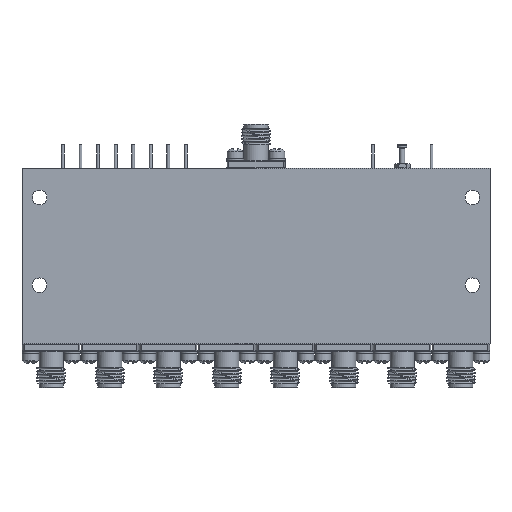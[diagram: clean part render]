
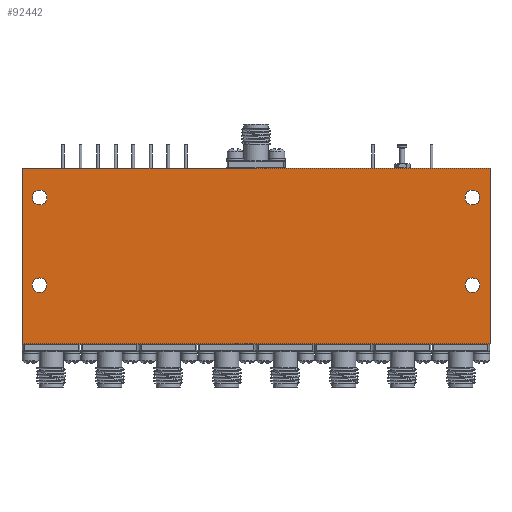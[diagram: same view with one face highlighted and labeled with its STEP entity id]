
A CAD part, front view. The second image highlights one B-rep face of the part: STEP entity #92442.
In plain terms, the highlighted planar face has unit normal (0, -1, 0).
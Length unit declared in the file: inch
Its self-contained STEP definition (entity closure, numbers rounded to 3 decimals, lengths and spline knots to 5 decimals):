
#1700 = CARTESIAN_POINT ( 'NONE',  ( -1.85, -0.4, 0.5625 ) ) ;
#3389 = VECTOR ( 'NONE', #10361, 39.37008 ) ;
#3994 = CARTESIAN_POINT ( 'NONE',  ( -1.85, -0.4, -0.1875 ) ) ;
#5257 = EDGE_CURVE ( 'NONE', #6132, #17029, #57139, .T. ) ;
#5545 = CIRCLE ( 'NONE', #16863, 0.0625 ) ;
#5752 = CARTESIAN_POINT ( 'NONE',  ( -1.85, -0.4, 0.5 ) ) ;
#6132 = VERTEX_POINT ( 'NONE', #38623 ) ;
#7356 = VERTEX_POINT ( 'NONE', #43831 ) ;
#7675 = LINE ( 'NONE', #61156, #17786 ) ;
#8651 = DIRECTION ( 'NONE',  ( 0., 0., 1. ) ) ;
#10361 = DIRECTION ( 'NONE',  ( -1., 0., 0. ) ) ;
#14660 = DIRECTION ( 'NONE',  ( 1., 0., 0. ) ) ;
#16696 = FACE_OUTER_BOUND ( 'NONE', #56086, .T. ) ;
#16809 = LINE ( 'NONE', #64720, #65073 ) ;
#16863 = AXIS2_PLACEMENT_3D ( 'NONE', #5752, #62631, #8651 ) ;
#17018 = CIRCLE ( 'NONE', #80531, 0.0625 ) ;
#17029 = VERTEX_POINT ( 'NONE', #63464 ) ;
#17786 = VECTOR ( 'NONE', #92212, 39.37008 ) ;
#19179 = DIRECTION ( 'NONE',  ( 0., 1., 0. ) ) ;
#22180 = DIRECTION ( 'NONE',  ( 0., 0., 1. ) ) ;
#22574 = DIRECTION ( 'NONE',  ( 0., 0., 1. ) ) ;
#22688 = DIRECTION ( 'NONE',  ( 0., 1., 0. ) ) ;
#23065 = CARTESIAN_POINT ( 'NONE',  ( 1.85, -0.4, -0.25 ) ) ;
#27278 = AXIS2_PLACEMENT_3D ( 'NONE', #57408, #65621, #56895 ) ;
#29173 = CIRCLE ( 'NONE', #66722, 0.0625 ) ;
#30425 = FACE_BOUND ( 'NONE', #87864, .T. ) ;
#38623 = CARTESIAN_POINT ( 'NONE',  ( 2., -0.4, -0.75 ) ) ;
#39651 = FACE_BOUND ( 'NONE', #99769, .T. ) ;
#42368 = EDGE_LOOP ( 'NONE', ( #79530 ) ) ;
#42575 = EDGE_CURVE ( 'NONE', #77830, #77830, #17018, .T. ) ;
#43831 = CARTESIAN_POINT ( 'NONE',  ( 2., -0.4, 0.75 ) ) ;
#47545 = EDGE_CURVE ( 'NONE', #48285, #48285, #29173, .T. ) ;
#47792 = PLANE ( 'NONE',  #27278 ) ;
#48120 = CARTESIAN_POINT ( 'NONE',  ( -2., -0.4, 0.75 ) ) ;
#48215 = EDGE_CURVE ( 'NONE', #72533, #7356, #84383, .T. ) ;
#48285 = VERTEX_POINT ( 'NONE', #63612 ) ;
#48783 = VERTEX_POINT ( 'NONE', #3994 ) ;
#49394 = AXIS2_PLACEMENT_3D ( 'NONE', #53792, #22688, #22180 ) ;
#50873 = ORIENTED_EDGE ( 'NONE', *, *, #48215, .F. ) ;
#51703 = EDGE_CURVE ( 'NONE', #48783, #48783, #93254, .T. ) ;
#53792 = CARTESIAN_POINT ( 'NONE',  ( -1.85, -0.4, -0.25 ) ) ;
#55390 = FACE_BOUND ( 'NONE', #79050, .T. ) ;
#56086 = EDGE_LOOP ( 'NONE', ( #60842, #72673, #86045, #50873 ) ) ;
#56895 = DIRECTION ( 'NONE',  ( 0., 0., 1. ) ) ;
#57139 = LINE ( 'NONE', #58154, #3389 ) ;
#57408 = CARTESIAN_POINT ( 'NONE',  ( 0., -0.4, 0. ) ) ;
#58154 = CARTESIAN_POINT ( 'NONE',  ( -2., -0.4, -0.75 ) ) ;
#58582 = EDGE_CURVE ( 'NONE', #7356, #6132, #7675, .T. ) ;
#60842 = ORIENTED_EDGE ( 'NONE', *, *, #73487, .F. ) ;
#61156 = CARTESIAN_POINT ( 'NONE',  ( 2., -0.4, -0.75 ) ) ;
#62631 = DIRECTION ( 'NONE',  ( 0., 1., 0. ) ) ;
#63073 = FACE_BOUND ( 'NONE', #42368, .T. ) ;
#63086 = CARTESIAN_POINT ( 'NONE',  ( 1.85, -0.4, 0.5625 ) ) ;
#63464 = CARTESIAN_POINT ( 'NONE',  ( -2., -0.4, -0.75 ) ) ;
#63612 = CARTESIAN_POINT ( 'NONE',  ( 1.85, -0.4, -0.1875 ) ) ;
#63777 = ORIENTED_EDGE ( 'NONE', *, *, #51703, .T. ) ;
#64720 = CARTESIAN_POINT ( 'NONE',  ( -2., -0.4, -0.75 ) ) ;
#65073 = VECTOR ( 'NONE', #71353, 39.37008 ) ;
#65621 = DIRECTION ( 'NONE',  ( 0., 1., 0. ) ) ;
#66722 = AXIS2_PLACEMENT_3D ( 'NONE', #23065, #70526, #22574 ) ;
#67587 = EDGE_CURVE ( 'NONE', #79100, #79100, #5545, .T. ) ;
#70526 = DIRECTION ( 'NONE',  ( 0., 1., 0. ) ) ;
#71353 = DIRECTION ( 'NONE',  ( 0., 0., 1. ) ) ;
#71718 = VECTOR ( 'NONE', #14660, 39.37008 ) ;
#72533 = VERTEX_POINT ( 'NONE', #48120 ) ;
#72673 = ORIENTED_EDGE ( 'NONE', *, *, #5257, .F. ) ;
#73487 = EDGE_CURVE ( 'NONE', #17029, #72533, #16809, .T. ) ;
#77529 = ORIENTED_EDGE ( 'NONE', *, *, #42575, .T. ) ;
#77830 = VERTEX_POINT ( 'NONE', #63086 ) ;
#79050 = EDGE_LOOP ( 'NONE', ( #77529 ) ) ;
#79100 = VERTEX_POINT ( 'NONE', #1700 ) ;
#79530 = ORIENTED_EDGE ( 'NONE', *, *, #67587, .T. ) ;
#80531 = AXIS2_PLACEMENT_3D ( 'NONE', #87962, #19179, #88458 ) ;
#82550 = ORIENTED_EDGE ( 'NONE', *, *, #47545, .T. ) ;
#84383 = LINE ( 'NONE', #92547, #71718 ) ;
#86045 = ORIENTED_EDGE ( 'NONE', *, *, #58582, .F. ) ;
#87864 = EDGE_LOOP ( 'NONE', ( #82550 ) ) ;
#87962 = CARTESIAN_POINT ( 'NONE',  ( 1.85, -0.4, 0.5 ) ) ;
#88458 = DIRECTION ( 'NONE',  ( 0., 0., 1. ) ) ;
#92212 = DIRECTION ( 'NONE',  ( 0., 0., -1. ) ) ;
#92442 = ADVANCED_FACE ( 'NONE', ( #39651, #63073, #55390, #30425, #16696 ), #47792, .F. ) ;
#92547 = CARTESIAN_POINT ( 'NONE',  ( -2., -0.4, 0.75 ) ) ;
#93254 = CIRCLE ( 'NONE', #49394, 0.0625 ) ;
#99769 = EDGE_LOOP ( 'NONE', ( #63777 ) ) ;
